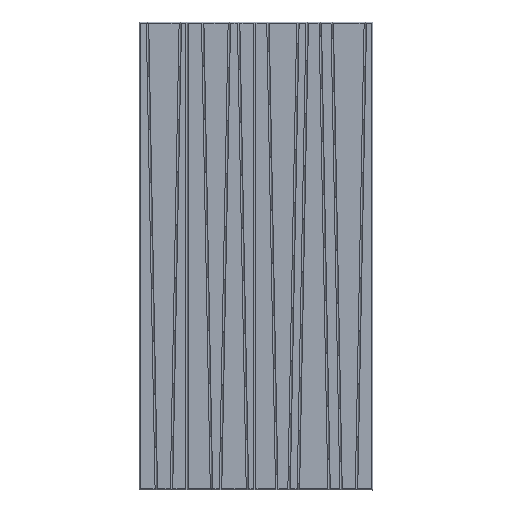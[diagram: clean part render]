
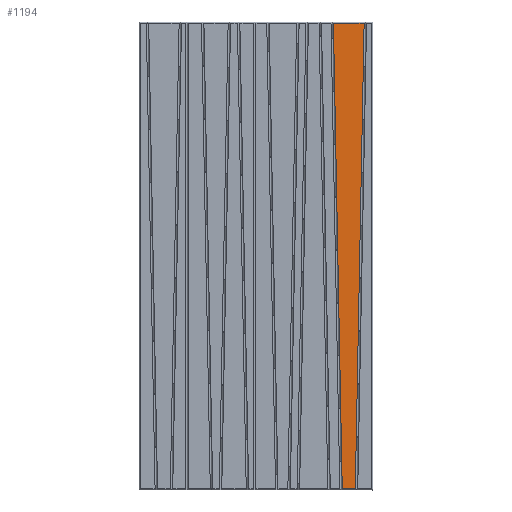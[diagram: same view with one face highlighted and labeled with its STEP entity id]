
A CAD part, top view. The second image highlights one B-rep face of the part: STEP entity #1194.
In plain terms, the highlighted planar face has unit normal (0, 0, 1).
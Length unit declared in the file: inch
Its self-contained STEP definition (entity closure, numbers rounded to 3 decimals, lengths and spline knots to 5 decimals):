
#64=FACE_OUTER_BOUND('',#139,.T.);
#139=EDGE_LOOP('',(#940,#941,#942,#943));
#182=LINE('',#1671,#345);
#254=LINE('',#1826,#417);
#274=LINE('',#1859,#437);
#296=LINE('',#1898,#459);
#345=VECTOR('',#1346,0.3937);
#417=VECTOR('',#1460,0.3937);
#437=VECTOR('',#1498,0.3937);
#459=VECTOR('',#1550,0.3937);
#504=VERTEX_POINT('',#1665);
#506=VERTEX_POINT('',#1669);
#567=VERTEX_POINT('',#1823);
#568=VERTEX_POINT('',#1825);
#598=EDGE_CURVE('',#504,#506,#182,.T.);
#670=EDGE_CURVE('',#568,#567,#254,.T.);
#690=EDGE_CURVE('',#504,#567,#274,.T.);
#712=EDGE_CURVE('',#568,#506,#296,.T.);
#940=ORIENTED_EDGE('',*,*,#598,.T.);
#941=ORIENTED_EDGE('',*,*,#712,.F.);
#942=ORIENTED_EDGE('',*,*,#670,.T.);
#943=ORIENTED_EDGE('',*,*,#690,.F.);
#1119=PLANE('',#1291);
#1194=ADVANCED_FACE('',(#64),#1119,.T.);
#1291=AXIS2_PLACEMENT_3D('',#1897,#1548,#1549);
#1346=DIRECTION('',(0.019,-1.,0.));
#1460=DIRECTION('',(0.019,1.,0.));
#1498=DIRECTION('',(1.,0.,0.));
#1548=DIRECTION('center_axis',(0.,0.,1.));
#1549=DIRECTION('ref_axis',(1.,0.,0.));
#1550=DIRECTION('',(-1.,0.,0.));
#1665=CARTESIAN_POINT('',(40.92152,96.79355,0.));
#1669=CARTESIAN_POINT('',(42.72745,1.29355,0.));
#1671=CARTESIAN_POINT('',(42.28479,24.70221,0.));
#1823=CARTESIAN_POINT('',(47.21307,96.79355,0.));
#1825=CARTESIAN_POINT('',(45.40714,1.29355,0.));
#1826=CARTESIAN_POINT('',(46.7696,73.34249,0.));
#1859=CARTESIAN_POINT('',(13.03828,96.79355,0.));
#1897=CARTESIAN_POINT('Origin',(25.03828,49.04355,0.));
#1898=CARTESIAN_POINT('',(37.03828,1.29355,0.));
